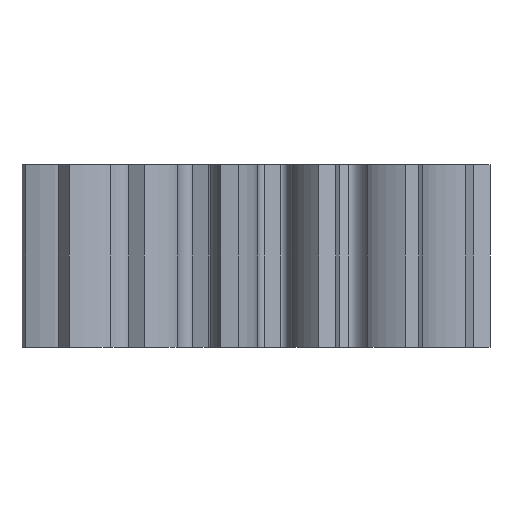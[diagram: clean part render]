
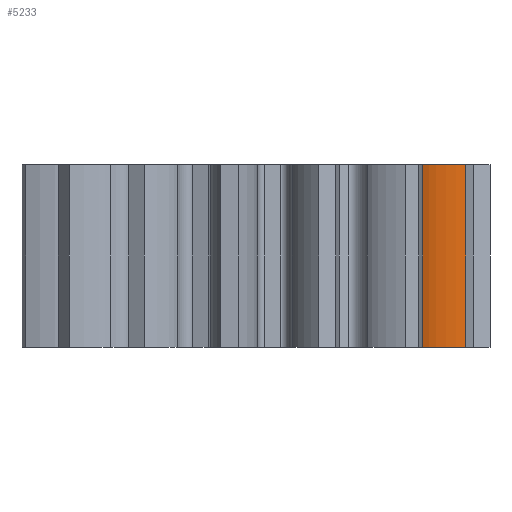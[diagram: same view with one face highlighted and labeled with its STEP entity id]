
A CAD part, front view. The second image highlights one B-rep face of the part: STEP entity #5233.
In plain terms, the highlighted free-form (B-spline) face has degree [1, 3] with [2, 4] control points.
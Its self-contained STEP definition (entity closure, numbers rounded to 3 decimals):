
#45 = PLANE('',#46);
#46 = AXIS2_PLACEMENT_3D('',#47,#48,#49);
#47 = CARTESIAN_POINT('',(0.,0.,0.));
#48 = DIRECTION('',(0.,0.,1.));
#49 = DIRECTION('',(1.,0.,0.));
#101 = PLANE('',#102);
#102 = AXIS2_PLACEMENT_3D('',#103,#104,#105);
#103 = CARTESIAN_POINT('',(0.,0.,26.3)
  );
#104 = DIRECTION('',(0.,0.,1.));
#105 = DIRECTION('',(1.,0.,0.));
#2796 = VERTEX_POINT('',#2797);
#2797 = CARTESIAN_POINT('',(24.245,-14.482,0.));
#2813 = ( BOUNDED_SURFACE() B_SPLINE_SURFACE(1,3,(
    (#2814,#2815,#2816,#2817)
    ,(#2818,#2819,#2820,#2821
)),.UNSPECIFIED.,.F.,.F.,.F.) B_SPLINE_SURFACE_WITH_KNOTS((2,2),(4,4),(
    0.,1.),(0.,1.),.PIECEWISE_BEZIER_KNOTS.) 
GEOMETRIC_REPRESENTATION_ITEM() RATIONAL_B_SPLINE_SURFACE((
    (1.,0.879,1.09,1.)
,(1.,0.879,1.09,1.
))) REPRESENTATION_ITEM('') SURFACE() );
#2814 = CARTESIAN_POINT('',(21.053,-13.849,0.));
#2815 = CARTESIAN_POINT('',(21.666,-12.932,0.));
#2816 = CARTESIAN_POINT('',(23.327,-13.793,0.));
#2817 = CARTESIAN_POINT('',(24.245,-14.482,0.));
#2818 = CARTESIAN_POINT('',(21.053,-13.849,26.3));
#2819 = CARTESIAN_POINT('',(21.666,-12.932,26.3));
#2820 = CARTESIAN_POINT('',(23.327,-13.793,26.3));
#2821 = CARTESIAN_POINT('',(24.245,-14.482,26.3));
#2828 = EDGE_CURVE('',#2796,#2829,#2831,.T.);
#2829 = VERTEX_POINT('',#2830);
#2830 = CARTESIAN_POINT('',(30.504,-15.018,0.));
#2831 = SURFACE_CURVE('',#2832,(#2837,#2845),.PCURVE_S1.);
#2832 = ( BOUNDED_CURVE() B_SPLINE_CURVE(3,(#2833,#2834,#2835,#2836),
.UNSPECIFIED.,.F.,.F.) B_SPLINE_CURVE_WITH_KNOTS((4,4),(0.,1.),
.PIECEWISE_BEZIER_KNOTS.) CURVE() GEOMETRIC_REPRESENTATION_ITEM() 
RATIONAL_B_SPLINE_CURVE((1.,0.992,1.011,1.)) 
REPRESENTATION_ITEM('') );
#2833 = CARTESIAN_POINT('',(24.245,-14.482,0.));
#2834 = CARTESIAN_POINT('',(25.86,-15.252,0.));
#2835 = CARTESIAN_POINT('',(28.454,-15.308,0.));
#2836 = CARTESIAN_POINT('',(30.504,-15.018,0.));
#2837 = PCURVE('',#45,#2838);
#2838 = DEFINITIONAL_REPRESENTATION('',(#2839),#2844);
#2839 = ( BOUNDED_CURVE() B_SPLINE_CURVE(3,(#2840,#2841,#2842,#2843),
.UNSPECIFIED.,.F.,.F.) B_SPLINE_CURVE_WITH_KNOTS((4,4),(0.,1.),
.PIECEWISE_BEZIER_KNOTS.) CURVE() GEOMETRIC_REPRESENTATION_ITEM() 
RATIONAL_B_SPLINE_CURVE((1.,0.992,1.011,1.)) 
REPRESENTATION_ITEM('') );
#2840 = CARTESIAN_POINT('',(24.245,-14.482));
#2841 = CARTESIAN_POINT('',(25.86,-15.252));
#2842 = CARTESIAN_POINT('',(28.454,-15.308));
#2843 = CARTESIAN_POINT('',(30.504,-15.018));
#2844 = ( GEOMETRIC_REPRESENTATION_CONTEXT(2) 
PARAMETRIC_REPRESENTATION_CONTEXT() REPRESENTATION_CONTEXT('2D SPACE',''
  ) );
#2845 = PCURVE('',#2846,#2855);
#2846 = ( BOUNDED_SURFACE() B_SPLINE_SURFACE(1,3,(
    (#2847,#2848,#2849,#2850)
    ,(#2851,#2852,#2853,#2854
)),.UNSPECIFIED.,.F.,.F.,.F.) B_SPLINE_SURFACE_WITH_KNOTS((2,2),(4,4),(
    0.,1.),(0.,1.),.PIECEWISE_BEZIER_KNOTS.) 
GEOMETRIC_REPRESENTATION_ITEM() RATIONAL_B_SPLINE_SURFACE((
    (1.,0.992,1.011,1.)
,(1.,0.992,1.011,1.
))) REPRESENTATION_ITEM('') SURFACE() );
#2847 = CARTESIAN_POINT('',(24.245,-14.482,0.));
#2848 = CARTESIAN_POINT('',(25.86,-15.252,0.));
#2849 = CARTESIAN_POINT('',(28.454,-15.308,0.));
#2850 = CARTESIAN_POINT('',(30.504,-15.018,0.));
#2851 = CARTESIAN_POINT('',(24.245,-14.482,26.3));
#2852 = CARTESIAN_POINT('',(25.86,-15.252,26.3));
#2853 = CARTESIAN_POINT('',(28.454,-15.308,26.3));
#2854 = CARTESIAN_POINT('',(30.504,-15.018,26.3));
#2855 = DEFINITIONAL_REPRESENTATION('',(#2856),#2859);
#2856 = B_SPLINE_CURVE_WITH_KNOTS('',1,(#2857,#2858),.UNSPECIFIED.,.F.,
  .F.,(2,2),(0.,1.),.PIECEWISE_BEZIER_KNOTS.);
#2857 = CARTESIAN_POINT('',(0.,0.));
#2858 = CARTESIAN_POINT('',(0.,1.));
#2859 = ( GEOMETRIC_REPRESENTATION_CONTEXT(2) 
PARAMETRIC_REPRESENTATION_CONTEXT() REPRESENTATION_CONTEXT('2D SPACE',''
  ) );
#2877 = ( BOUNDED_SURFACE() B_SPLINE_SURFACE(1,2,(
    (#2878,#2879,#2880)
    ,(#2881,#2882,#2883
)),.UNSPECIFIED.,.F.,.F.,.F.) B_SPLINE_SURFACE_WITH_KNOTS((2,2),(3,3),(
    0.,1.),(0.,1.),.PIECEWISE_BEZIER_KNOTS.) 
GEOMETRIC_REPRESENTATION_ITEM() RATIONAL_B_SPLINE_SURFACE((
    (1.,0.999,1.)
,(1.,0.999,1.))) REPRESENTATION_ITEM('') SURFACE() );
#2878 = CARTESIAN_POINT('',(30.504,-15.018,0.));
#2879 = CARTESIAN_POINT('',(31.084,-13.839,0.));
#2880 = CARTESIAN_POINT('',(31.571,-12.62,0.));
#2881 = CARTESIAN_POINT('',(30.504,-15.018,26.3));
#2882 = CARTESIAN_POINT('',(31.084,-13.839,26.3));
#2883 = CARTESIAN_POINT('',(31.571,-12.62,26.3));
#4992 = VERTEX_POINT('',#4993);
#4993 = CARTESIAN_POINT('',(24.245,-14.482,26.3));
#5015 = EDGE_CURVE('',#4992,#5016,#5018,.T.);
#5016 = VERTEX_POINT('',#5017);
#5017 = CARTESIAN_POINT('',(30.504,-15.018,26.3));
#5018 = SURFACE_CURVE('',#5019,(#5024,#5032),.PCURVE_S1.);
#5019 = ( BOUNDED_CURVE() B_SPLINE_CURVE(3,(#5020,#5021,#5022,#5023),
.UNSPECIFIED.,.F.,.F.) B_SPLINE_CURVE_WITH_KNOTS((4,4),(0.,1.),
.PIECEWISE_BEZIER_KNOTS.) CURVE() GEOMETRIC_REPRESENTATION_ITEM() 
RATIONAL_B_SPLINE_CURVE((1.,0.992,1.011,1.)) 
REPRESENTATION_ITEM('') );
#5020 = CARTESIAN_POINT('',(24.245,-14.482,26.3));
#5021 = CARTESIAN_POINT('',(25.86,-15.252,26.3));
#5022 = CARTESIAN_POINT('',(28.454,-15.308,26.3));
#5023 = CARTESIAN_POINT('',(30.504,-15.018,26.3));
#5024 = PCURVE('',#101,#5025);
#5025 = DEFINITIONAL_REPRESENTATION('',(#5026),#5031);
#5026 = ( BOUNDED_CURVE() B_SPLINE_CURVE(3,(#5027,#5028,#5029,#5030),
.UNSPECIFIED.,.F.,.F.) B_SPLINE_CURVE_WITH_KNOTS((4,4),(0.,1.),
.PIECEWISE_BEZIER_KNOTS.) CURVE() GEOMETRIC_REPRESENTATION_ITEM() 
RATIONAL_B_SPLINE_CURVE((1.,0.992,1.011,1.)) 
REPRESENTATION_ITEM('') );
#5027 = CARTESIAN_POINT('',(24.245,-14.482));
#5028 = CARTESIAN_POINT('',(25.86,-15.252));
#5029 = CARTESIAN_POINT('',(28.454,-15.308));
#5030 = CARTESIAN_POINT('',(30.504,-15.018));
#5031 = ( GEOMETRIC_REPRESENTATION_CONTEXT(2) 
PARAMETRIC_REPRESENTATION_CONTEXT() REPRESENTATION_CONTEXT('2D SPACE',''
  ) );
#5032 = PCURVE('',#2846,#5033);
#5033 = DEFINITIONAL_REPRESENTATION('',(#5034),#5037);
#5034 = B_SPLINE_CURVE_WITH_KNOTS('',1,(#5035,#5036),.UNSPECIFIED.,.F.,
  .F.,(2,2),(0.,1.),.PIECEWISE_BEZIER_KNOTS.);
#5035 = CARTESIAN_POINT('',(1.,0.));
#5036 = CARTESIAN_POINT('',(1.,1.));
#5037 = ( GEOMETRIC_REPRESENTATION_CONTEXT(2) 
PARAMETRIC_REPRESENTATION_CONTEXT() REPRESENTATION_CONTEXT('2D SPACE',''
  ) );
#5190 = EDGE_CURVE('',#2829,#5016,#5191,.T.);
#5191 = SURFACE_CURVE('',#5192,(#5195,#5201),.PCURVE_S1.);
#5192 = B_SPLINE_CURVE_WITH_KNOTS('',1,(#5193,#5194),.UNSPECIFIED.,.F.,
  .F.,(2,2),(0.,1.),.PIECEWISE_BEZIER_KNOTS.);
#5193 = CARTESIAN_POINT('',(30.504,-15.018,0.));
#5194 = CARTESIAN_POINT('',(30.504,-15.018,26.3));
#5195 = PCURVE('',#2877,#5196);
#5196 = DEFINITIONAL_REPRESENTATION('',(#5197),#5200);
#5197 = B_SPLINE_CURVE_WITH_KNOTS('',1,(#5198,#5199),.UNSPECIFIED.,.F.,
  .F.,(2,2),(0.,1.),.PIECEWISE_BEZIER_KNOTS.);
#5198 = CARTESIAN_POINT('',(0.,0.));
#5199 = CARTESIAN_POINT('',(1.,0.));
#5200 = ( GEOMETRIC_REPRESENTATION_CONTEXT(2) 
PARAMETRIC_REPRESENTATION_CONTEXT() REPRESENTATION_CONTEXT('2D SPACE',''
  ) );
#5201 = PCURVE('',#2846,#5202);
#5202 = DEFINITIONAL_REPRESENTATION('',(#5203),#5206);
#5203 = B_SPLINE_CURVE_WITH_KNOTS('',1,(#5204,#5205),.UNSPECIFIED.,.F.,
  .F.,(2,2),(0.,1.),.PIECEWISE_BEZIER_KNOTS.);
#5204 = CARTESIAN_POINT('',(0.,1.));
#5205 = CARTESIAN_POINT('',(1.,1.));
#5206 = ( GEOMETRIC_REPRESENTATION_CONTEXT(2) 
PARAMETRIC_REPRESENTATION_CONTEXT() REPRESENTATION_CONTEXT('2D SPACE',''
  ) );
#5233 = ADVANCED_FACE('',(#5234),#2846,.F.);
#5234 = FACE_BOUND('',#5235,.F.);
#5235 = EDGE_LOOP('',(#5236,#5237,#5255,#5256));
#5236 = ORIENTED_EDGE('',*,*,#2828,.F.);
#5237 = ORIENTED_EDGE('',*,*,#5238,.T.);
#5238 = EDGE_CURVE('',#2796,#4992,#5239,.T.);
#5239 = SURFACE_CURVE('',#5240,(#5243,#5249),.PCURVE_S1.);
#5240 = B_SPLINE_CURVE_WITH_KNOTS('',1,(#5241,#5242),.UNSPECIFIED.,.F.,
  .F.,(2,2),(0.,1.),.PIECEWISE_BEZIER_KNOTS.);
#5241 = CARTESIAN_POINT('',(24.245,-14.482,0.));
#5242 = CARTESIAN_POINT('',(24.245,-14.482,26.3));
#5243 = PCURVE('',#2846,#5244);
#5244 = DEFINITIONAL_REPRESENTATION('',(#5245),#5248);
#5245 = B_SPLINE_CURVE_WITH_KNOTS('',1,(#5246,#5247),.UNSPECIFIED.,.F.,
  .F.,(2,2),(0.,1.),.PIECEWISE_BEZIER_KNOTS.);
#5246 = CARTESIAN_POINT('',(0.,0.));
#5247 = CARTESIAN_POINT('',(1.,0.));
#5248 = ( GEOMETRIC_REPRESENTATION_CONTEXT(2) 
PARAMETRIC_REPRESENTATION_CONTEXT() REPRESENTATION_CONTEXT('2D SPACE',''
  ) );
#5249 = PCURVE('',#2813,#5250);
#5250 = DEFINITIONAL_REPRESENTATION('',(#5251),#5254);
#5251 = B_SPLINE_CURVE_WITH_KNOTS('',1,(#5252,#5253),.UNSPECIFIED.,.F.,
  .F.,(2,2),(0.,1.),.PIECEWISE_BEZIER_KNOTS.);
#5252 = CARTESIAN_POINT('',(0.,1.));
#5253 = CARTESIAN_POINT('',(1.,1.));
#5254 = ( GEOMETRIC_REPRESENTATION_CONTEXT(2) 
PARAMETRIC_REPRESENTATION_CONTEXT() REPRESENTATION_CONTEXT('2D SPACE',''
  ) );
#5255 = ORIENTED_EDGE('',*,*,#5015,.T.);
#5256 = ORIENTED_EDGE('',*,*,#5190,.F.);
